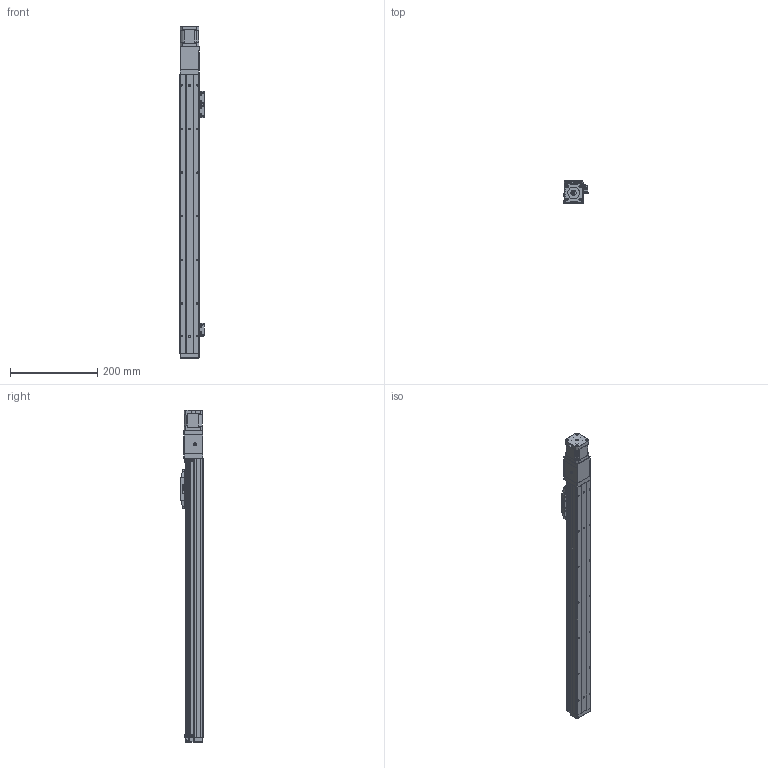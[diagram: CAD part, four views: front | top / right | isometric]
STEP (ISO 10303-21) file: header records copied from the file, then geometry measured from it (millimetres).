
FILE_DESCRIPTION (( 'STEP AP203' ), '1' );
FILE_NAME ('GTH4-500-BC-B42-C4.step', '2023-02-14T00:15:42', ( '微软用户' ), ( '微软中国' ), 'SwSTEP 2.0', 'SolidWorks 2020', '' );
FILE_SCHEMA (( 'CONFIG_CONTROL_DESIGN' ));
Length unit declared in the file: millimetre
Products named in the file (19): BTH40-005-1; BTH-M3X5X6; BTH40-022; 42CM06; GBT70.1-2000 M3×16; GBT 70.1-M2.5×6; GTH4-500-BC-B42-C4; BTH50-028; BTH40-004; BTH50-023; BTH40-013; BTH40-001-50_BTH40-001-500; BTH50-024; GBT 70.3-M3℅6; BTH40-003; GBT 70.1-M3℅6; BTH40-017; BTH40-006; GBT96.1-2002 3×0.8
Assembly tree (49 placements, depth 2):
  GTH4-500-BC-B42-C4
    BTH40-001-50_BTH40-001-500
    BTH40-003
    BTH40-006
    BTH-M3X5X6  x10
    GBT70.1-2000 M3×16  x4
    BTH50-028  x2
    BTH50-023  x3
    BTH50-024  x3
    GBT 70.1-M3℅6  x6
    GBT96.1-2002 3×0.8  x6
    BTH40-022
    GBT 70.1-M2.5×6  x2
    BTH40-004
    BTH40-013
    GBT 70.3-M3℅6  x4
    BTH40-017
    BTH40-005-1
    42CM06
Bounding box: 55.2 x 52 x 761 mm (x, y, z)
Volume: 1159839.3 mm3; surface area: 238396.1 mm2
Topology: 58 solids, 58 shells, 3298 faces, 7706 edges, 4628 vertices
Faces by surface type: cone 1475, plane 1112, cylinder 547, torus 128, bspline 24, sphere 12
Entity records: 75682 total; most frequent: DIRECTION 13493, CARTESIAN_POINT 13229, ORIENTED_EDGE 11874, EDGE_CURVE 5937, AXIS2_PLACEMENT_3D 5119, VERTEX_POINT 3559, VECTOR 3255, LINE 3255
